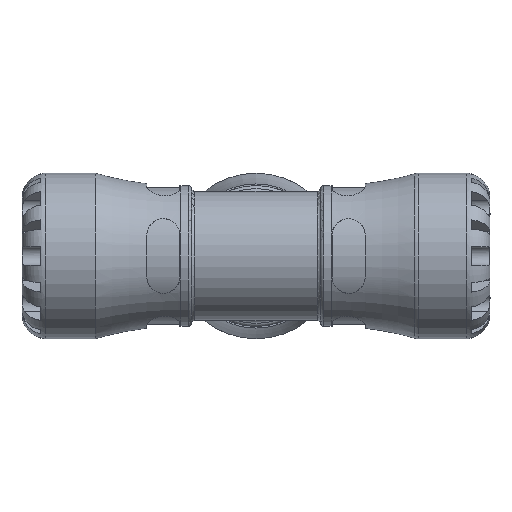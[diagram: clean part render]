
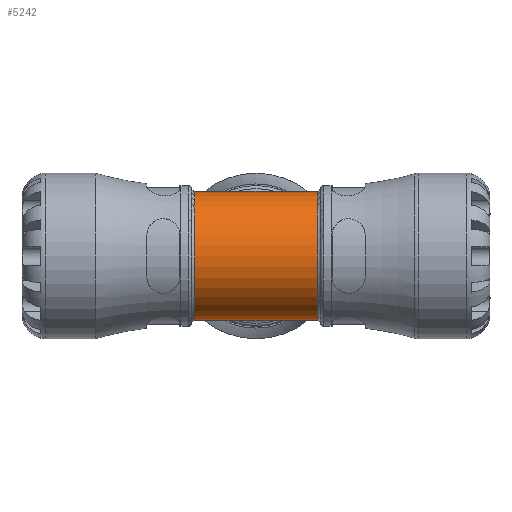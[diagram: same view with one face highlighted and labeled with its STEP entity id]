
A CAD part, front view. The second image highlights one B-rep face of the part: STEP entity #5242.
In plain terms, the highlighted cylindrical face has radius 27.3 mm (diameter 54.6 mm), a partial arc.
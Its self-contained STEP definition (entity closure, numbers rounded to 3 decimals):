
#974=CYLINDRICAL_SURFACE('',#5752,27.3);
#1420=FACE_OUTER_BOUND('',#1724,.T.);
#1724=EDGE_LOOP('',(#4392,#4393,#4394,#4395,#4396,#4397));
#1852=ELLIPSE('',#5383,39.106,27.3);
#1855=ELLIPSE('',#5388,39.106,27.3);
#1857=ELLIPSE('',#5392,39.106,27.3);
#1858=ELLIPSE('',#5394,39.106,27.3);
#1883=CIRCLE('',#5413,27.3);
#1984=CIRCLE('',#5615,27.3);
#2177=VERTEX_POINT('',#7510);
#2178=VERTEX_POINT('',#7512);
#2181=VERTEX_POINT('',#7620);
#2186=VERTEX_POINT('',#7807);
#2188=VERTEX_POINT('',#7810);
#2190=VERTEX_POINT('',#7844);
#2682=EDGE_CURVE('',#2177,#2178,#1852,.T.);
#2689=EDGE_CURVE('',#2178,#2181,#1855,.T.);
#2696=EDGE_CURVE('',#2188,#2186,#1857,.T.);
#2698=EDGE_CURVE('',#2190,#2188,#1858,.T.);
#2722=EDGE_CURVE('',#2186,#2177,#1883,.T.);
#2983=EDGE_CURVE('',#2181,#2190,#1984,.T.);
#4392=ORIENTED_EDGE('',*,*,#2682,.F.);
#4393=ORIENTED_EDGE('',*,*,#2722,.F.);
#4394=ORIENTED_EDGE('',*,*,#2696,.F.);
#4395=ORIENTED_EDGE('',*,*,#2698,.F.);
#4396=ORIENTED_EDGE('',*,*,#2983,.F.);
#4397=ORIENTED_EDGE('',*,*,#2689,.F.);
#5242=ADVANCED_FACE('',(#1420),#974,.T.);
#5383=AXIS2_PLACEMENT_3D('',#7513,#5998,#5999);
#5388=AXIS2_PLACEMENT_3D('',#7624,#6008,#6009);
#5392=AXIS2_PLACEMENT_3D('',#7812,#6016,#6017);
#5394=AXIS2_PLACEMENT_3D('',#7846,#6020,#6021);
#5413=AXIS2_PLACEMENT_3D('',#8237,#6058,#6059);
#5615=AXIS2_PLACEMENT_3D('',#9770,#6551,#6552);
#5752=AXIS2_PLACEMENT_3D('',#10774,#6891,#6892);
#5998=DIRECTION('center_axis',(-0.698,0.716,0.));
#5999=DIRECTION('ref_axis',(0.716,0.698,0.));
#6008=DIRECTION('center_axis',(0.698,0.716,0.));
#6009=DIRECTION('ref_axis',(-0.716,0.698,0.));
#6016=DIRECTION('center_axis',(-0.698,0.716,0.));
#6017=DIRECTION('ref_axis',(0.716,0.698,0.));
#6020=DIRECTION('center_axis',(0.698,0.716,0.));
#6021=DIRECTION('ref_axis',(-0.716,0.698,0.));
#6058=DIRECTION('center_axis',(1.,0.,0.));
#6059=DIRECTION('ref_axis',(0.,1.,0.));
#6551=DIRECTION('center_axis',(-1.,0.,0.));
#6552=DIRECTION('ref_axis',(0.,1.,0.));
#6891=DIRECTION('center_axis',(1.,0.,0.));
#6892=DIRECTION('ref_axis',(0.,-1.,0.));
#7510=CARTESIAN_POINT('',(25.922,25.274,-10.321));
#7512=CARTESIAN_POINT('',(0.,0.,-27.3));
#7513=CARTESIAN_POINT('Origin',(0.,0.,0.));
#7620=CARTESIAN_POINT('',(-25.922,25.274,-10.321));
#7624=CARTESIAN_POINT('Origin',(0.,0.,0.));
#7807=CARTESIAN_POINT('',(25.922,25.274,10.321));
#7810=CARTESIAN_POINT('',(0.,0.,27.3));
#7812=CARTESIAN_POINT('Origin',(0.,0.,0.));
#7844=CARTESIAN_POINT('',(-25.922,25.274,10.321));
#7846=CARTESIAN_POINT('Origin',(0.,0.,0.));
#8237=CARTESIAN_POINT('Origin',(25.922,0.,0.));
#9770=CARTESIAN_POINT('Origin',(-25.922,0.,0.));
#10774=CARTESIAN_POINT('Origin',(13.65,0.,0.));
